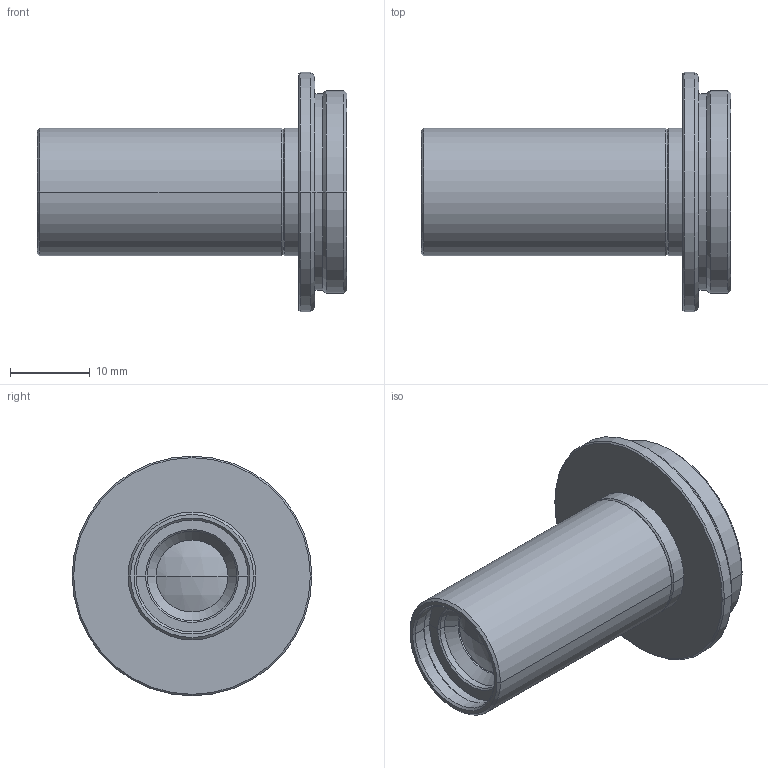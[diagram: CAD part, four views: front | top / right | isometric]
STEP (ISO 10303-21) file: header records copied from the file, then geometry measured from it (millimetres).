
FILE_DESCRIPTION (( 'STEP AP203' ), '1' );
FILE_NAME ('VS-MC03-135.STEP', '2020-08-05T07:25:40', ( '' ), ( '' ), 'SwSTEP 2.0', 'SolidWorks 2020', '' );
FILE_SCHEMA (( 'CONFIG_CONTROL_DESIGN' ));
Length unit declared in the file: millimetre
Products named in the file (1): VS-MC03-135
Bounding box: 38.74 x 30 x 30 mm (x, y, z)
Volume: 6003.7 mm3; surface area: 4703 mm2
Topology: 1 solids, 1 shells, 67 faces, 132 edges, 72 vertices
Faces by surface type: cone 34, cylinder 24, plane 5, sphere 4
Entity records: 1773 total; most frequent: DIRECTION 342, CARTESIAN_POINT 272, ORIENTED_EDGE 264, AXIS2_PLACEMENT_3D 142, EDGE_CURVE 132, CIRCLE 74, VERTEX_POINT 72, EDGE_LOOP 72
